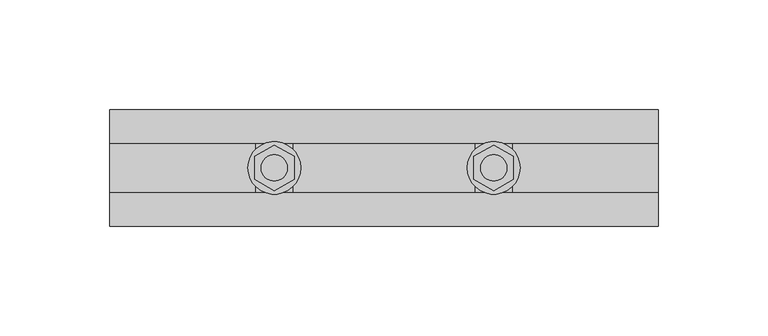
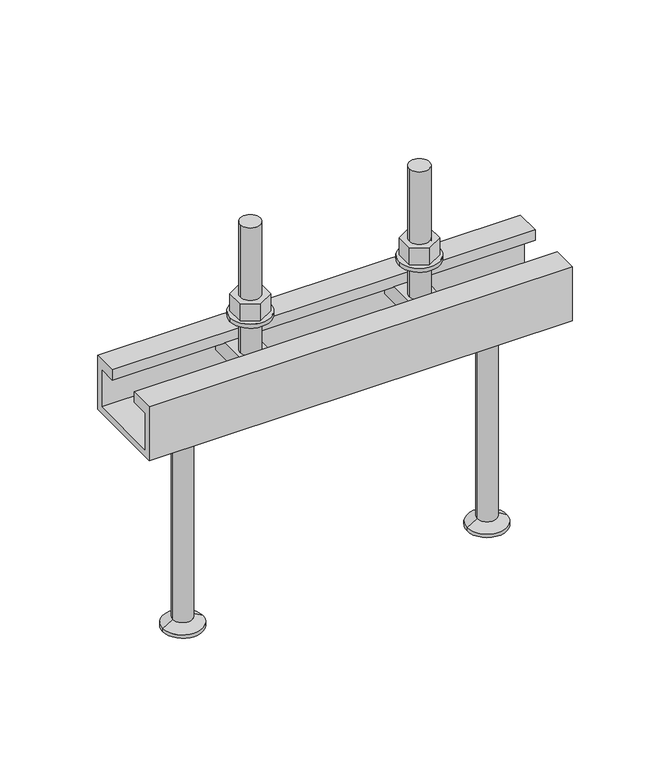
"""IFC4 building model written with IfcOpenShell, lengths in millimetres: fastener geometry, JTA-W JORDAHL® AnchorChannels : JTA-W L=250 mm."""

import ifcopenshell
import ifcopenshell.guid

model = None  # the IFC model being written
_history = None  # IfcOwnerHistory: only IFC2X3 demands one
_inside = {}  # id of a spatial element -> (the spatial element, [elements in it])
_under = {}  # id of a project, library or spatial element -> (it, [spatial elements below it])
_declared = {}  # id of a project -> (the project, [libraries it declares])
_typed = {}  # id of a type object -> (the type object, [elements of that type])
_made_of = {}  # id of a material, layer set ... -> (it, [elements and type objects made of it])


def new_model(schema):
    """Start an empty IFC model of exactly this schema.

    Asked for "IFC4X3", IfcOpenShell would pick the latest addendum, in which some entities
    have other attributes; the version numbers below select the first issue.
    IFC2X3 requires an IfcOwnerHistory on every rooted entity: one is made here for all.
    """
    global model, _history
    if schema == "IFC4X3":
        model = ifcopenshell.file(schema_version=(4, 3, 0, 0))
    else:
        model = ifcopenshell.file(schema=schema)
    _inside.clear()
    _under.clear()
    _declared.clear()
    _typed.clear()
    _made_of.clear()
    _history = None
    if model.schema == "IFC2X3":
        org = make("IfcOrganization", Name="unknown")
        user = make(
            "IfcPersonAndOrganization",
            ThePerson=make("IfcPerson", FamilyName="unknown"),
            TheOrganization=org,
        )
        app = make(
            "IfcApplication",
            ApplicationDeveloper=org,
            Version="unknown",
            ApplicationFullName="unknown",
            ApplicationIdentifier="unknown",
        )
        _history = make(
            "IfcOwnerHistory",
            OwningUser=user,
            OwningApplication=app,
            ChangeAction="ADDED",
            CreationDate=0,
        )
    return model


def make(cls, **values):
    """One entity of the class cls with the attributes given. An attribute that is None is left unset."""
    return model.create_entity(
        cls, **{name: value for name, value in values.items() if value is not None}
    )


def rooted(cls, **values):
    """An entity with a GlobalId (a new one), such as an element, a storey or a relation."""
    return make(cls, GlobalId=ifcopenshell.guid.new(), OwnerHistory=_history, **values)


def si_unit(unit_type, name, prefix=None):
    """IfcSIUnit, for example si_unit("LENGTHUNIT", "METRE", prefix="MILLI")."""
    return make("IfcSIUnit", UnitType=unit_type, Prefix=prefix, Name=name)


def assignment(units):
    """IfcUnitAssignment: the units of a project."""
    return None if units is None else make("IfcUnitAssignment", Units=units)


def point(xyz):
    """IfcCartesianPoint."""
    return None if xyz is None else make("IfcCartesianPoint", Coordinates=xyz)


def direction(xyz):
    """IfcDirection."""
    return None if xyz is None else make("IfcDirection", DirectionRatios=xyz)


def frame(location, z_axis=None, x_axis=None):
    """IfcAxis2Placement3D, a coordinate frame: its origin and axes. An axis left out is left unset."""
    return make(
        "IfcAxis2Placement3D",
        Location=point(location),
        Axis=direction(z_axis),
        RefDirection=direction(x_axis),
    )


def frame_2d(location, x_axis=None):
    """IfcAxis2Placement2D, a coordinate frame in the plane: its origin and x axis."""
    return make(
        "IfcAxis2Placement2D", Location=point(location), RefDirection=direction(x_axis)
    )


def origin():
    """The frame at (0, 0, 0) with its axes left unset."""
    return frame((0.0, 0.0, 0.0))


def place(relative_to, where):
    """IfcLocalPlacement: puts the frame where relative to a parent placement (None: the world)."""
    return make(
        "IfcLocalPlacement", PlacementRelTo=relative_to, RelativePlacement=where
    )


def context(
    kind, dimensions, precision=None, world=None, true_north=None, identifier=None
):
    """IfcGeometricRepresentationContext, for example the 3D "Model" context."""
    return make(
        "IfcGeometricRepresentationContext",
        ContextIdentifier=identifier,
        ContextType=kind,
        CoordinateSpaceDimension=dimensions,
        Precision=precision,
        WorldCoordinateSystem=world,
        TrueNorth=true_north,
    )


def project(units=None, contexts=None):
    """IfcProject with its units and contexts."""
    return rooted(
        "IfcProject",
        Name="project",
        RepresentationContexts=contexts,
        UnitsInContext=assignment(units),
    )


def spatial(cls, under=None, at=None, **own):
    """A site, building, storey or space (cls), placed at a placement, below another one or the project."""
    s = rooted(cls, ObjectPlacement=at, **own)
    if under is not None:
        _under.setdefault(under.id(), (under, []))[1].append(s)
    return s


def polyline(points):
    """IfcPolyline through the points."""
    return make("IfcPolyline", Points=[point(p) for p in points])


def circle_curve(where, radius):
    """IfcCircle in the frame where."""
    return make("IfcCircle", Position=where, Radius=radius)


def trimmed(basis, trim1, trim2, sense, master):
    """IfcTrimmedCurve: the piece of a basis curve between two trims."""
    return make(
        "IfcTrimmedCurve",
        BasisCurve=basis,
        Trim1=trim1,
        Trim2=trim2,
        SenseAgreement=sense,
        MasterRepresentation=master,
    )


def segment(curve, same_sense, transition):
    """IfcCompositeCurveSegment."""
    return make(
        "IfcCompositeCurveSegment",
        Transition=transition,
        SameSense=same_sense,
        ParentCurve=curve,
    )


def composite_curve(segments, self_intersect=None):
    """IfcCompositeCurve: segments joined end to end."""
    return make("IfcCompositeCurve", Segments=segments, SelfIntersect=self_intersect)


def outline(outer, holes=None, kind="AREA"):
    """IfcArbitraryClosedProfileDef: a profile drawn as a closed curve; with holes, ...WithVoids."""
    if holes is None:
        return make("IfcArbitraryClosedProfileDef", ProfileType=kind, OuterCurve=outer)
    return make(
        "IfcArbitraryProfileDefWithVoids",
        ProfileType=kind,
        OuterCurve=outer,
        InnerCurves=holes,
    )


def extrude(swept, where, along, depth):
    """IfcExtrudedAreaSolid: the profile swept, set in the frame where, extruded along a direction by depth."""
    return make(
        "IfcExtrudedAreaSolid",
        SweptArea=swept,
        Position=where,
        ExtrudedDirection=direction(along),
        Depth=depth,
    )


def shape(context_of_items, identifier, shape_type, items):
    """IfcShapeRepresentation: the items that make up one representation, for example the "Body"."""
    return make(
        "IfcShapeRepresentation",
        ContextOfItems=context_of_items,
        RepresentationIdentifier=identifier,
        RepresentationType=shape_type,
        Items=items,
    )


def source(mapping_origin, context_of_items, identifier, shape_type, items):
    """IfcRepresentationMap: a shape defined once, which mapped items show again and again."""
    return make(
        "IfcRepresentationMap",
        MappingOrigin=mapping_origin,
        MappedRepresentation=shape(context_of_items, identifier, shape_type, items),
    )


def transform(
    local_origin,
    x_axis=None,
    y_axis=None,
    z_axis=None,
    scale=None,
    scale2=None,
    scale3=None,
    uniform=True,
):
    """IfcCartesianTransformationOperator3D, or its non-uniform kind. x_axis, y_axis, z_axis: its Axis1, 2, 3."""
    if uniform:
        return make(
            "IfcCartesianTransformationOperator3D",
            Axis1=direction(x_axis),
            Axis2=direction(y_axis),
            LocalOrigin=point(local_origin),
            Scale=scale,
            Axis3=direction(z_axis),
        )
    return make(
        "IfcCartesianTransformationOperator3DnonUniform",
        Axis1=direction(x_axis),
        Axis2=direction(y_axis),
        LocalOrigin=point(local_origin),
        Scale=scale,
        Axis3=direction(z_axis),
        Scale2=scale2,
        Scale3=scale3,
    )


def mapped(mapping_source, mapping_target):
    """IfcMappedItem: shows the shape of a source again, moved by a transform."""
    return make(
        "IfcMappedItem", MappingSource=mapping_source, MappingTarget=mapping_target
    )


def made_of(thing, what):
    """Note that an element or type object is made of a material, layer set ...; save() writes the relation."""
    if what is not None:
        _made_of.setdefault(what.id(), (what, []))[1].append(thing)
    return thing


def element(
    cls,
    number,
    at=None,
    inside=None,
    cuts=None,
    type_object=None,
    material=None,
    context=None,
    identifier="Body",
    shape_type=None,
    held_by="IfcProductDefinitionShape",
    body=None,
    shapes=None,
    **own,
):
    """One element of the class cls, such as IfcWall. Its Tag is "e" and its number.

    at: its placement. inside: the storey or other place that contains it. cuts: it is an
    opening in that element (IfcRelVoidsElement). A single representation is given by context,
    identifier, shape_type and body (its items); several are given by shapes. held_by: the class
    of the entity that holds the representations. save() writes the other relations.
    """
    e = rooted(cls, Tag="e%d" % number, ObjectPlacement=at, **own)
    if body is not None:
        shapes = [shape(context, identifier, shape_type, body)]
    if shapes is not None:
        e.Representation = make(held_by, Representations=shapes)
    if inside is not None:
        _inside.setdefault(inside.id(), (inside, []))[1].append(e)
    if cuts is not None:
        rooted(
            "IfcRelVoidsElement", RelatingBuildingElement=cuts, RelatedOpeningElement=e
        )
    if type_object is not None:
        _typed.setdefault(type_object.id(), (type_object, []))[1].append(e)
    return made_of(e, material)


def aggregate(whole, parts):
    """IfcRelAggregates: a whole, such as a stair, and the parts it consists of."""
    return rooted("IfcRelAggregates", RelatingObject=whole, RelatedObjects=parts)


def save(model, path):
    """Write the relations noted so far, then the file.

    IfcRelAggregates (storeys below a building ...), IfcRelContainedInSpatialStructure (elements
    in a storey), IfcRelDefinesByType, IfcRelAssociatesMaterial and IfcRelDeclares: one each for
    every whole, place, type object, material and project.
    """
    for whole, parts in _under.values():
        aggregate(whole, parts)
    for where, things in _inside.values():
        rooted(
            "IfcRelContainedInSpatialStructure",
            RelatedElements=things,
            RelatingStructure=where,
        )
    for kind, things in _typed.values():
        rooted("IfcRelDefinesByType", RelatedObjects=things, RelatingType=kind)
    for what, things in _made_of.values():
        rooted("IfcRelAssociatesMaterial", RelatedObjects=things, RelatingMaterial=what)
    for by, libraries in _declared.values():
        rooted("IfcRelDeclares", RelatingContext=by, RelatedDefinitions=libraries)
    model.write(path)


def plane_surface(at):
    """IfcPlane: the flat surface through the origin of the frame at, square to its z axis."""
    return make("IfcPlane", Position=at)


def cylinder_surface(at, radius):
    """IfcCylindricalSurface: all points at the distance radius from the z axis of the frame at."""
    return make("IfcCylindricalSurface", Position=at, Radius=radius)


def revolved_surface(curve, axis_point, axis_direction):
    """IfcSurfaceOfRevolution: the curve turned about the line through axis_point along axis_direction."""
    return make(
        "IfcSurfaceOfRevolution",
        SweptCurve=make("IfcArbitraryOpenProfileDef", ProfileType="CURVE", Curve=curve),
        AxisPosition=make("IfcAxis1Placement", Location=point(axis_point), Axis=direction(axis_direction)),
    )


def advanced_brep(points, edges, surfaces, faces):
    """IfcAdvancedBrep: a solid bounded by faces that lie on surfaces and meet in shared edges.

    An edge is (start, end): straight between two places in points (the first is 0);
    or (start, end, curve); or (start, end, curve, False) where it runs against its curve.
    A face is (place in surfaces, loops), or (place, loops, False) where it looks against
    its surface's normal. A loop lists edges by number (the first is 1), with a minus sign
    where the edge is run from its end to its start. The first loop is the outer one.
    """
    corners = [point(p) for p in points]
    vertices = [make("IfcVertexPoint", VertexGeometry=c) for c in corners]
    made = []
    for start, end, *more in edges:
        made.append(
            make(
                "IfcEdgeCurve",
                EdgeStart=vertices[start],
                EdgeEnd=vertices[end],
                EdgeGeometry=more[0] if more else make("IfcPolyline", Points=[corners[start], corners[end]]),
                SameSense=more[1] if len(more) > 1 else True,
            )
        )
    hull = []
    for where, loops, *sense in faces:
        bounds = []
        for j, loop in enumerate(loops):
            ring = [make("IfcOrientedEdge", EdgeElement=made[abs(k) - 1], Orientation=k > 0) for k in loop]
            bounds.append(
                make(
                    "IfcFaceOuterBound" if j == 0 else "IfcFaceBound",
                    Bound=make("IfcEdgeLoop", EdgeList=ring),
                    Orientation=True,
                )
            )
        hull.append(make("IfcAdvancedFace", Bounds=bounds, FaceSurface=surfaces[where], SameSense=sense[0] if sense else True))
    return make("IfcAdvancedBrep", Outer=make("IfcClosedShell", CfsFaces=hull))


def fastener_4b748c20(model_context):
    return source(origin(), model_context, "Body", "SolidModel", [
        extrude(outline(polyline([(175.0, -10.3923048), (166.0, -5.1961524), (166.0, 5.1961524), (175.0, 10.3923048), (184.0, 5.1961524), (184.0, -5.1961524), (175.0, -10.3923048)]), holes=[composite_curve([segment(trimmed(circle_curve(frame_2d((175.0, 0.0)), 6.0), [point((169.0, 0.0))], [point((181.0, 0.0))], True, "CARTESIAN"), True, "CONTINUOUS"), segment(trimmed(circle_curve(frame_2d((175.0, 0.0)), 6.0), [point((181.0, 0.0))], [point((169.0, 0.0))], True, "CARTESIAN"), True, "CONTINUOUS")], self_intersect=False)]), frame((0.0, 0.0, 17.5), z_axis=(0.0, 0.0, 1.0), x_axis=(1.0, 0.0, 0.0)), (0.0, 0.0, 1.0), 10.8),
        extrude(outline(composite_curve([segment(trimmed(circle_curve(frame_2d((175.0, 0.0)), 12.0), [point((163.0, 0.0))], [point((187.0, 0.0))], False, "CARTESIAN"), True, "CONTINUOUS"), segment(trimmed(circle_curve(frame_2d((175.0, 0.0)), 12.0), [point((187.0, 0.0))], [point((163.0, 0.0))], False, "CARTESIAN"), True, "CONTINUOUS")], self_intersect=False), holes=[composite_curve([segment(trimmed(circle_curve(frame_2d((175.0, 0.0)), 6.5), [point((168.5, 0.0))], [point((181.5, 0.0))], True, "CARTESIAN"), True, "CONTINUOUS"), segment(trimmed(circle_curve(frame_2d((175.0, 0.0)), 6.5), [point((181.5, 0.0))], [point((168.5, 0.0))], True, "CARTESIAN"), True, "CONTINUOUS")], self_intersect=False)]), frame((0.0, 0.0, 15.0), z_axis=(0.0, 0.0, 1.0), x_axis=(1.0, 0.0, 0.0)), (0.0, 0.0, 1.0), 2.5),
        extrude(outline(polyline([(75.0, -10.3923048), (66.0, -5.1961524), (66.0, 5.1961524), (75.0, 10.3923048), (84.0, 5.1961524), (84.0, -5.1961524), (75.0, -10.3923048)]), holes=[composite_curve([segment(trimmed(circle_curve(frame_2d((75.0, 0.0)), 6.0), [point((69.0, 0.0))], [point((81.0, 0.0))], True, "CARTESIAN"), True, "CONTINUOUS"), segment(trimmed(circle_curve(frame_2d((75.0, 0.0)), 6.0), [point((81.0, 0.0))], [point((69.0, 0.0))], True, "CARTESIAN"), True, "CONTINUOUS")], self_intersect=False)]), frame((0.0, 0.0, 17.5), z_axis=(0.0, 0.0, 1.0), x_axis=(1.0, 0.0, 0.0)), (0.0, 0.0, 1.0), 10.8),
        extrude(outline(composite_curve([segment(trimmed(circle_curve(frame_2d((75.0, 0.0)), 12.0), [point((63.0, 0.0))], [point((87.0, 0.0))], False, "CARTESIAN"), True, "CONTINUOUS"), segment(trimmed(circle_curve(frame_2d((75.0, 0.0)), 12.0), [point((87.0, 0.0))], [point((63.0, 0.0))], False, "CARTESIAN"), True, "CONTINUOUS")], self_intersect=False), holes=[composite_curve([segment(trimmed(circle_curve(frame_2d((75.0, 0.0)), 6.5), [point((68.5, 0.0))], [point((81.5, 0.0))], True, "CARTESIAN"), True, "CONTINUOUS"), segment(trimmed(circle_curve(frame_2d((75.0, 0.0)), 6.5), [point((81.5, 0.0))], [point((68.5, 0.0))], True, "CARTESIAN"), True, "CONTINUOUS")], self_intersect=False)]), frame((0.0, 0.0, 15.0), z_axis=(0.0, 0.0, 1.0), x_axis=(1.0, 0.0, 0.0)), (0.0, 0.0, 1.0), 2.5),
        advanced_brep(
        [(183.5, -20.7, -6.5), (183.5, -20.7, -16.5), (183.5, 20.7, -16.5), (183.5, 20.7, -6.5), (166.5, -20.7, -6.5), (166.5, 20.7, -6.5), (166.5, 20.7, -16.5), (166.5, -20.7, -16.5), (181.0, 0.0, -6.5), (169.0, 0.0, -6.5), (169.0, 0.0, 73.5), (181.0, 0.0, 73.5)],
        [
            (0, 1),
            (1, 2),
            (2, 3),
            (3, 0),
            (4, 5),
            (5, 6),
            (6, 7),
            (7, 4),
            (3, 5),
            (4, 0),
            (8, 9, circle_curve(frame((175.0, 0.0, -6.5), z_axis=(0.0, 0.0, -1.0), x_axis=(1.0, 0.0, 0.0)), 6.0)),
            (9, 8, circle_curve(frame((175.0, 0.0, -6.5), z_axis=(0.0, 0.0, -1.0), x_axis=(1.0, 0.0, 0.0)), 6.0)),
            (2, 6),
            (1, 7),
            (10, 11, circle_curve(frame((175.0, 0.0, 73.5), z_axis=(0.0, 0.0, 1.0), x_axis=(1.0, 0.0, 0.0)), 6.0)),
            (11, 10, circle_curve(frame((175.0, 0.0, 73.5), z_axis=(0.0, 0.0, 1.0), x_axis=(1.0, 0.0, 0.0)), 6.0)),
            (11, 8),
            (9, 10),
        ],
        [
            plane_surface(frame((183.5, 20.7, -6.5), z_axis=(1.0, 0.0, 0.0), x_axis=(0.0, 1.0, 0.0))),
            plane_surface(frame((166.5, 20.7, -6.5), z_axis=(-1.0, 0.0, 0.0), x_axis=(0.0, -1.0, 0.0))),
            plane_surface(frame((183.5, -20.7, -6.5), z_axis=(0.0, 0.0, 1.0), x_axis=(-1.0, 0.0, 0.0))),
            plane_surface(frame((183.5, 20.7, -6.5), z_axis=(0.0, 1.0, 0.0), x_axis=(-1.0, 0.0, 0.0))),
            plane_surface(frame((183.5, 20.7, -16.5), z_axis=(0.0, 0.0, -1.0), x_axis=(-1.0, 0.0, 0.0))),
            plane_surface(frame((183.5, -20.7, -16.5), z_axis=(0.0, -1.0, 0.0), x_axis=(-1.0, 0.0, 0.0))),
            plane_surface(frame((181.0, 0.0, 73.5), z_axis=(0.0, 0.0, 1.0), x_axis=(0.0, -1.0, 0.0))),
            cylinder_surface(frame((175.0, 0.0, -6.5), z_axis=(0.0, 0.0, 1.0), x_axis=(1.0, 0.0, 0.0)), 6.0),
        ],
        [
            (0, [[1, 2, 3, 4]]),
            (1, [[5, 6, 7, 8]]),
            (2, [[9, -5, 10, -4], [11, 12]]),
            (3, [[13, -6, -9, -3]]),
            (4, [[14, -7, -13, -2]]),
            (5, [[-10, -8, -14, -1]]),
            (6, [[15, 16]]),
            (7, [[17, -12, 18, -16]]),
            (7, [[-18, -11, -17, -15]]),
        ],
    ),
        advanced_brep(
        [(83.5, -20.7, -6.5), (83.5, -20.7, -16.5), (83.5, 20.7, -16.5), (83.5, 20.7, -6.5), (66.5, -20.7, -6.5), (66.5, 20.7, -6.5), (66.5, 20.7, -16.5), (66.5, -20.7, -16.5), (81.0, 0.0, -6.5), (69.0, 0.0, -6.5), (69.0, 0.0, 73.5), (81.0, 0.0, 73.5)],
        [
            (0, 1),
            (1, 2),
            (2, 3),
            (3, 0),
            (4, 5),
            (5, 6),
            (6, 7),
            (7, 4),
            (3, 5),
            (4, 0),
            (8, 9, circle_curve(frame((75.0, 0.0, -6.5), z_axis=(0.0, 0.0, -1.0), x_axis=(1.0, 0.0, 0.0)), 6.0)),
            (9, 8, circle_curve(frame((75.0, 0.0, -6.5), z_axis=(0.0, 0.0, -1.0), x_axis=(1.0, 0.0, 0.0)), 6.0)),
            (2, 6),
            (1, 7),
            (10, 11, circle_curve(frame((75.0, 0.0, 73.5), z_axis=(0.0, 0.0, 1.0), x_axis=(1.0, 0.0, 0.0)), 6.0)),
            (11, 10, circle_curve(frame((75.0, 0.0, 73.5), z_axis=(0.0, 0.0, 1.0), x_axis=(1.0, 0.0, 0.0)), 6.0)),
            (11, 8),
            (9, 10),
        ],
        [
            plane_surface(frame((83.5, 20.7, -6.5), z_axis=(1.0, 0.0, 0.0), x_axis=(0.0, 1.0, 0.0))),
            plane_surface(frame((66.5, 20.7, -6.5), z_axis=(-1.0, 0.0, 0.0), x_axis=(0.0, -1.0, 0.0))),
            plane_surface(frame((83.5, -20.7, -6.5), z_axis=(0.0, 0.0, 1.0), x_axis=(-1.0, 0.0, 0.0))),
            plane_surface(frame((83.5, 20.7, -6.5), z_axis=(0.0, 1.0, 0.0), x_axis=(-1.0, 0.0, 0.0))),
            plane_surface(frame((83.5, 20.7, -16.5), z_axis=(0.0, 0.0, -1.0), x_axis=(-1.0, 0.0, 0.0))),
            plane_surface(frame((83.5, -20.7, -16.5), z_axis=(0.0, -1.0, 0.0), x_axis=(-1.0, 0.0, 0.0))),
            plane_surface(frame((81.0, 0.0, 73.5), z_axis=(0.0, 0.0, 1.0), x_axis=(0.0, -1.0, 0.0))),
            cylinder_surface(frame((75.0, 0.0, -6.5), z_axis=(0.0, 0.0, 1.0), x_axis=(1.0, 0.0, 0.0)), 6.0),
        ],
        [
            (0, [[1, 2, 3, 4]]),
            (1, [[5, 6, 7, 8]]),
            (2, [[9, -5, 10, -4], [11, 12]]),
            (3, [[13, -6, -9, -3]]),
            (4, [[14, -7, -13, -2]]),
            (5, [[-10, -8, -14, -1]]),
            (6, [[15, 16]]),
            (7, [[17, -12, 18, -16]]),
            (7, [[-18, -11, -17, -15]]),
        ],
    ),
        advanced_brep(
        [(215.0, 0.0, -34.0), (197.5, 0.0, -34.0), (232.5, 0.0, -34.0), (203.2, 0.0, -165.0), (215.0, 0.0, -165.0), (226.8, 0.0, -165.0), (203.2, 0.0, -163.0), (226.8, 0.0, -163.0), (209.2, 0.0, -159.5358984), (220.8, 0.0, -159.5358984), (209.2, 0.0, -37.0), (220.8, 0.0, -37.0)],
        [
            (0, 1),
            (1, 2, circle_curve(frame((215.0, 0.0, -34.0), z_axis=(0.0, 0.0, 1.0), x_axis=(1.0, 0.0, 0.0)), 17.5)),
            (2, 0),
            (2, 1, circle_curve(frame((215.0, 0.0, -34.0), z_axis=(0.0, 0.0, 1.0), x_axis=(1.0, 0.0, 0.0)), 17.5)),
            (3, 4),
            (4, 5),
            (5, 3, circle_curve(frame((215.0, 0.0, -165.0), z_axis=(0.0, 0.0, -1.0), x_axis=(1.0, 0.0, 0.0)), 11.8)),
            (3, 5, circle_curve(frame((215.0, 0.0, -165.0), z_axis=(0.0, 0.0, -1.0), x_axis=(1.0, 0.0, 0.0)), 11.8)),
            (6, 3),
            (5, 7),
            (7, 6, circle_curve(frame((215.0, 0.0, -163.0), z_axis=(0.0, 0.0, -1.0), x_axis=(1.0, 0.0, 0.0)), 11.8)),
            (6, 7, circle_curve(frame((215.0, 0.0, -163.0), z_axis=(0.0, 0.0, -1.0), x_axis=(1.0, 0.0, 0.0)), 11.8)),
            (8, 6),
            (7, 9),
            (9, 8, circle_curve(frame((215.0, 0.0, -159.5358984), z_axis=(0.0, 0.0, -1.0), x_axis=(1.0, 0.0, 0.0)), 5.8)),
            (8, 9, circle_curve(frame((215.0, 0.0, -159.5358984), z_axis=(0.0, 0.0, -1.0), x_axis=(1.0, 0.0, 0.0)), 5.8)),
            (10, 8),
            (9, 11),
            (11, 10, circle_curve(frame((215.0, 0.0, -37.0), z_axis=(0.0, 0.0, -1.0), x_axis=(1.0, 0.0, 0.0)), 5.8)),
            (10, 11, circle_curve(frame((215.0, 0.0, -37.0), z_axis=(0.0, 0.0, -1.0), x_axis=(1.0, 0.0, 0.0)), 5.8)),
            (1, 10),
            (11, 2),
        ],
        [
            plane_surface(frame((215.0, 0.0, -34.0), z_axis=(0.0, 0.0, 1.0), x_axis=(1.0, 0.0, 0.0))),
            plane_surface(frame((215.0, 0.0, -165.0), z_axis=(0.0, 0.0, -1.0), x_axis=(1.0, 0.0, 0.0))),
            cylinder_surface(frame((215.0, 0.0, 2345.3150031), z_axis=(0.0, 0.0, 1.0), x_axis=(1.0, 0.0, 0.0)), 11.8),
            revolved_surface(polyline([(226.8, 0.0, -163.0), (220.8, 0.0, -159.5358984)]), (215.0, 0.0, 2345.3150031), (0.0, 0.0, 1.0)),
            cylinder_surface(frame((215.0, 0.0, 2345.3150031), z_axis=(0.0, 0.0, 1.0), x_axis=(1.0, 0.0, 0.0)), 5.8),
            revolved_surface(polyline([(220.8, 0.0, -37.0), (232.5, 0.0, -34.0)]), (215.0, 0.0, 2345.3150031), (0.0, 0.0, 1.0)),
        ],
        [
            (0, [[1, 2, 3]]),
            (0, [[-3, 4, -1]]),
            (1, [[5, 6, 7]]),
            (1, [[-6, -5, 8]]),
            (2, [[9, -7, 10, 11]]),
            (2, [[-10, -8, -9, 12]]),
            (3, [[13, -11, 14, 15]]),
            (3, [[-14, -12, -13, 16]]),
            (4, [[17, -15, 18, 19]]),
            (4, [[-18, -16, -17, 20]]),
            (5, [[21, -19, 22, -2]]),
            (5, [[-22, -20, -21, -4]]),
        ],
    ),
        advanced_brep(
        [(35.0, 0.0, -34.0), (17.5, 0.0, -34.0), (52.5, 0.0, -34.0), (23.2, 0.0, -165.0), (35.0, 0.0, -165.0), (46.8, 0.0, -165.0), (23.2, 0.0, -163.0), (46.8, 0.0, -163.0), (29.2, 0.0, -159.5358984), (40.8, 0.0, -159.5358984), (29.2, 0.0, -37.0), (40.8, 0.0, -37.0)],
        [
            (0, 1),
            (1, 2, circle_curve(frame((35.0, 0.0, -34.0), z_axis=(0.0, 0.0, 1.0), x_axis=(1.0, 0.0, 0.0)), 17.5)),
            (2, 0),
            (2, 1, circle_curve(frame((35.0, 0.0, -34.0), z_axis=(0.0, 0.0, 1.0), x_axis=(1.0, 0.0, 0.0)), 17.5)),
            (3, 4),
            (4, 5),
            (5, 3, circle_curve(frame((35.0, 0.0, -165.0), z_axis=(0.0, 0.0, -1.0), x_axis=(1.0, 0.0, 0.0)), 11.8)),
            (3, 5, circle_curve(frame((35.0, 0.0, -165.0), z_axis=(0.0, 0.0, -1.0), x_axis=(1.0, 0.0, 0.0)), 11.8)),
            (6, 3),
            (5, 7),
            (7, 6, circle_curve(frame((35.0, 0.0, -163.0), z_axis=(0.0, 0.0, -1.0), x_axis=(1.0, 0.0, 0.0)), 11.8)),
            (6, 7, circle_curve(frame((35.0, 0.0, -163.0), z_axis=(0.0, 0.0, -1.0), x_axis=(1.0, 0.0, 0.0)), 11.8)),
            (8, 6),
            (7, 9),
            (9, 8, circle_curve(frame((35.0, 0.0, -159.5358984), z_axis=(0.0, 0.0, -1.0), x_axis=(1.0, 0.0, 0.0)), 5.8)),
            (8, 9, circle_curve(frame((35.0, 0.0, -159.5358984), z_axis=(0.0, 0.0, -1.0), x_axis=(1.0, 0.0, 0.0)), 5.8)),
            (10, 8),
            (9, 11),
            (11, 10, circle_curve(frame((35.0, 0.0, -37.0), z_axis=(0.0, 0.0, -1.0), x_axis=(1.0, 0.0, 0.0)), 5.8)),
            (10, 11, circle_curve(frame((35.0, 0.0, -37.0), z_axis=(0.0, 0.0, -1.0), x_axis=(1.0, 0.0, 0.0)), 5.8)),
            (1, 10),
            (11, 2),
        ],
        [
            plane_surface(frame((35.0, 0.0, -34.0), z_axis=(0.0, 0.0, 1.0), x_axis=(1.0, 0.0, 0.0))),
            plane_surface(frame((35.0, 0.0, -165.0), z_axis=(0.0, 0.0, -1.0), x_axis=(1.0, 0.0, 0.0))),
            cylinder_surface(frame((35.0, 0.0, 2345.3150031), z_axis=(0.0, 0.0, 1.0), x_axis=(1.0, 0.0, 0.0)), 11.8),
            revolved_surface(polyline([(46.8, 0.0, -163.0), (40.8, 0.0, -159.5358984)]), (35.0, 0.0, 2345.3150031), (0.0, 0.0, 1.0)),
            cylinder_surface(frame((35.0, 0.0, 2345.3150031), z_axis=(0.0, 0.0, 1.0), x_axis=(1.0, 0.0, 0.0)), 5.8),
            revolved_surface(polyline([(40.8, 0.0, -37.0), (52.5, 0.0, -34.0)]), (35.0, 0.0, 2345.3150031), (0.0, 0.0, 1.0)),
        ],
        [
            (0, [[1, 2, 3]]),
            (0, [[-3, 4, -1]]),
            (1, [[5, 6, 7]]),
            (1, [[-6, -5, 8]]),
            (2, [[9, -7, 10, 11]]),
            (2, [[-10, -8, -9, 12]]),
            (3, [[13, -11, 14, 15]]),
            (3, [[-14, -12, -13, 16]]),
            (4, [[17, -15, 18, 19]]),
            (4, [[-18, -16, -17, 20]]),
            (5, [[21, -19, 22, -2]]),
            (5, [[-22, -20, -21, -4]]),
        ],
    ),
        extrude(outline(polyline([(-26.5, 0.0), (-11.25, 0.0), (-11.25, -6.5), (-22.5, -6.5), (-22.5, -30.0), (22.5, -30.0), (22.5, -6.5), (11.25, -6.5), (11.25, 0.0), (26.5, 0.0), (26.5, -34.0), (-26.5, -34.0), (-26.5, 0.0)])), frame((0.0, 0.0, 0.0), z_axis=(1.0, 0.0, 0.0), x_axis=(0.0, 1.0, 0.0)), (0.0, 0.0, 1.0), 250.0),
    ])


if __name__ == "__main__":
    model = new_model("IFC4")
    model_context = context("Model", 3, world=origin())
    ifc_project = project(units=[si_unit("LENGTHUNIT", "METRE", prefix="MILLI")], contexts=[model_context])
    site = spatial("IfcSite", under=ifc_project)
    building = spatial("IfcBuilding", under=site)
    placement = place(None, origin())
    fastener_shape = fastener_4b748c20(model_context)
    element("IfcFastener", 1, ObjectType="JTA-W JORDAHL® AnchorChannels : JTA-W L=250 mm", at=placement, inside=building, context=model_context, shape_type="MappedRepresentation", body=[
        mapped(fastener_shape, transform((0.0, 0.0, 0.0), x_axis=(1.0, 0.0, 0.0), y_axis=(0.0, 1.0, 0.0), z_axis=(0.0, 0.0, 1.0))),
    ])
    save(model, "model.ifc")
